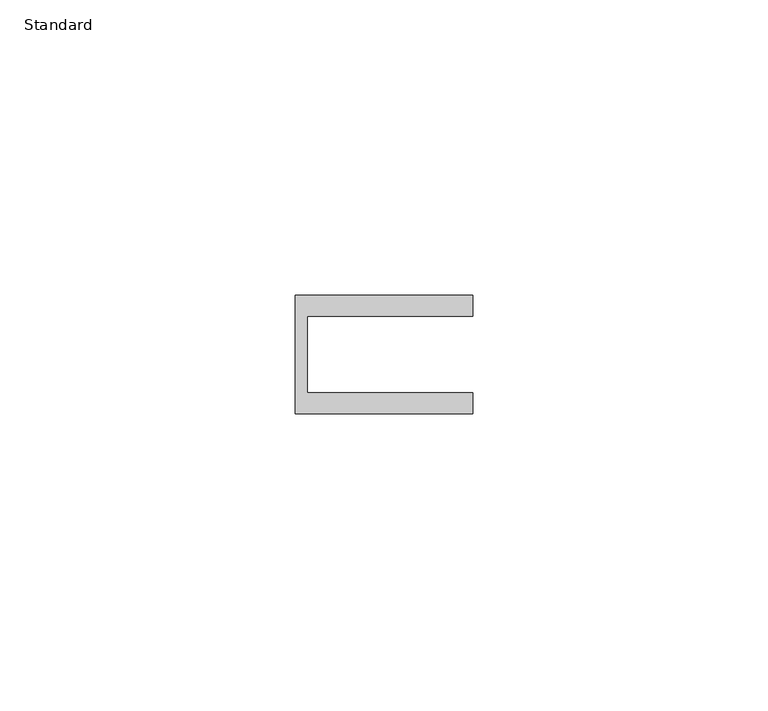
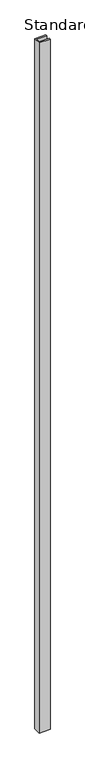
"""IFC4 building model written with IfcOpenShell, lengths in millimetres: furniture geometry, X_Partition-Channel-Duracube-End : Standard."""

from ifc_helpers import new_model, si_unit, origin, origin_with_axes, place, context, project, spatial, polyline, outline, extrude, source, transform, mapped, element, save


def standard_0900acf0(model_context):
    return source(origin(), model_context, "Body", "SweptSolid", [
        extrude(outline(polyline([(31.7003264, 0.0), (59.7003264, 0.0), (59.7003264, -3.5), (29.7003264, -3.5), (29.7003264, 16.5), (59.7003264, 16.5), (59.7003264, 13.0), (31.7003264, 13.0), (31.7003264, 0.0)])), origin_with_axes(), (0.0, 0.0, 1.0), 1999.0),
    ])


if __name__ == "__main__":
    model = new_model("IFC4")
    model_context = context("Model", 3, world=origin())
    ifc_project = project(units=[si_unit("LENGTHUNIT", "METRE", prefix="MILLI")], contexts=[model_context])
    site = spatial("IfcSite", under=ifc_project)
    building = spatial("IfcBuilding", under=site)
    placement = place(None, origin())
    standard_shape = standard_0900acf0(model_context)
    element("IfcFurniture", 1, ObjectType="X_Partition-Channel-Duracube-End : Standard", at=placement, inside=building, context=model_context, shape_type="MappedRepresentation", body=[
        mapped(standard_shape, transform((0.0, 0.0, 0.0), x_axis=(1.0, 0.0, 0.0), y_axis=(0.0, 1.0, 0.0), z_axis=(0.0, 0.0, 1.0))),
    ])
    save(model, "model.ifc")
